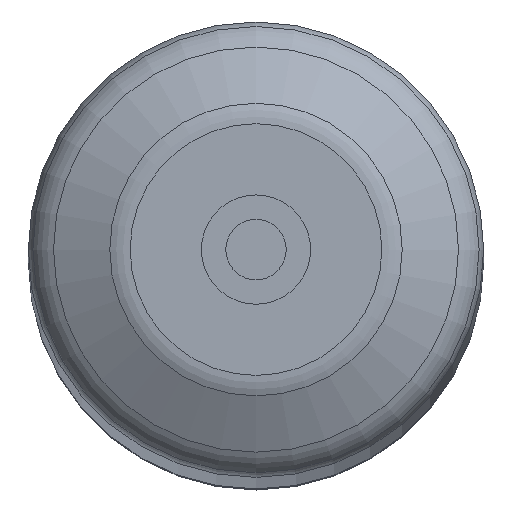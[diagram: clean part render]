
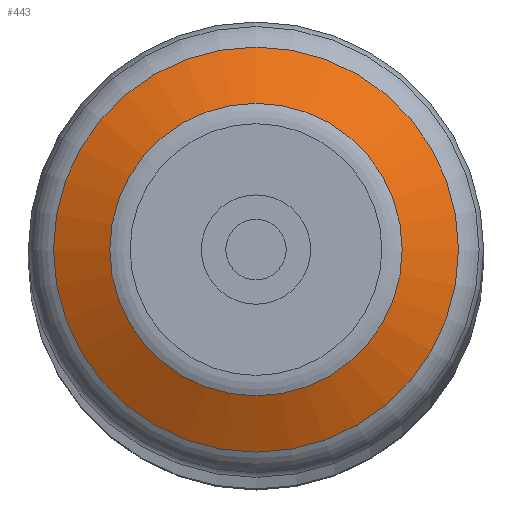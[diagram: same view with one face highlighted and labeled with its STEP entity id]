
A CAD part, top view. The second image highlights one B-rep face of the part: STEP entity #443.
In plain terms, the highlighted conical face has half-angle 63.435 degrees and reference radius 20 mm.
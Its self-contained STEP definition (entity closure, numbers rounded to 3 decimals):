
#15=CONICAL_SURFACE('',#536,20.,1.107);
#73=FACE_OUTER_BOUND('',#108,.T.);
#108=EDGE_LOOP('',(#378,#379,#380,#381,#382));
#128=LINE('',#826,#141);
#141=VECTOR('',#687,20.);
#182=CIRCLE('',#532,16.056);
#185=CIRCLE('',#535,16.056);
#186=CIRCLE('',#537,22.236);
#221=VERTEX_POINT('',#816);
#222=VERTEX_POINT('',#817);
#224=VERTEX_POINT('',#824);
#274=EDGE_CURVE('',#221,#222,#182,.T.);
#277=EDGE_CURVE('',#222,#221,#185,.T.);
#278=EDGE_CURVE('',#224,#224,#186,.T.);
#279=EDGE_CURVE('',#224,#221,#128,.T.);
#378=ORIENTED_EDGE('',*,*,#278,.F.);
#379=ORIENTED_EDGE('',*,*,#279,.T.);
#380=ORIENTED_EDGE('',*,*,#277,.F.);
#381=ORIENTED_EDGE('',*,*,#274,.F.);
#382=ORIENTED_EDGE('',*,*,#279,.F.);
#443=ADVANCED_FACE('',(#73),#15,.T.);
#532=AXIS2_PLACEMENT_3D('',#818,#675,#676);
#535=AXIS2_PLACEMENT_3D('',#822,#681,#682);
#536=AXIS2_PLACEMENT_3D('',#823,#683,#684);
#537=AXIS2_PLACEMENT_3D('',#825,#685,#686);
#675=DIRECTION('center_axis',(0.,0.,1.));
#676=DIRECTION('ref_axis',(1.,0.,0.));
#681=DIRECTION('center_axis',(0.,0.,1.));
#682=DIRECTION('ref_axis',(1.,0.,0.));
#683=DIRECTION('center_axis',(0.,0.,-1.));
#684=DIRECTION('ref_axis',(1.,0.,0.));
#685=DIRECTION('center_axis',(0.,0.,-1.));
#686=DIRECTION('ref_axis',(1.,0.,0.));
#687=DIRECTION('',(0.894,0.,0.447));
#816=CARTESIAN_POINT('',(-16.056,0.,808.972));
#817=CARTESIAN_POINT('',(16.056,0.,808.972));
#818=CARTESIAN_POINT('Origin',(0.,0.,808.972));
#822=CARTESIAN_POINT('Origin',(0.,0.,808.972));
#823=CARTESIAN_POINT('Origin',(0.,0.,807.));
#824=CARTESIAN_POINT('',(-22.236,0.,805.882));
#825=CARTESIAN_POINT('Origin',(0.,0.,805.882));
#826=CARTESIAN_POINT('',(-20.,0.,807.));
